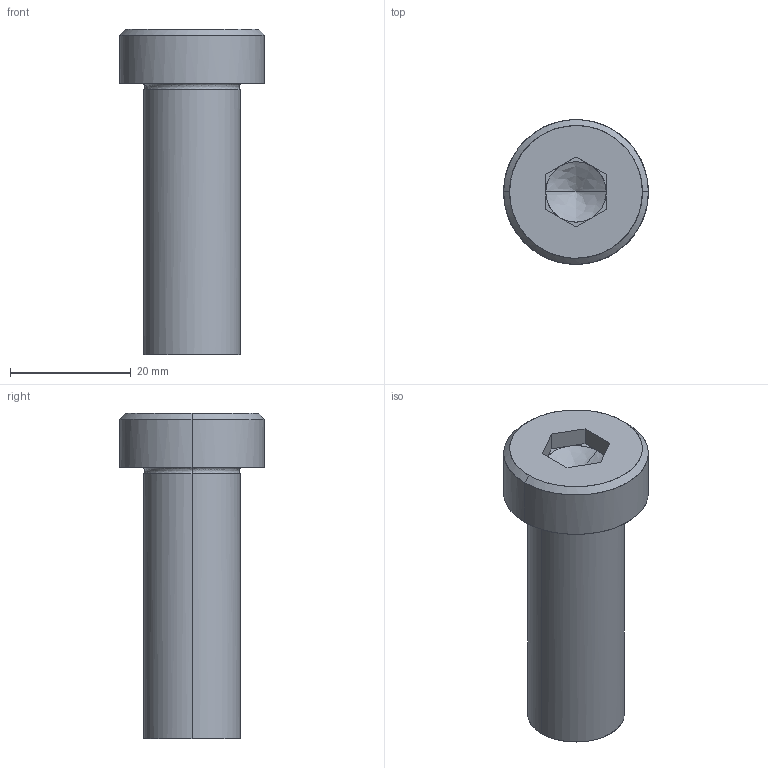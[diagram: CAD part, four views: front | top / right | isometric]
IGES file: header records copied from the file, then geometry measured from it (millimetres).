
Global section: file name: E:\UnigraphicsGraphicData\MISUMI_PRESS-PARTS\IGES\3d_sbtcn16-45_05141_r00.igs; native system: NX V5.0; preprocessor: UGS NX IGES V5.0; author: MISUMI; date: 20110105.162456; units: millimetre
Bounding box: 24 x 24 x 54 mm (x, y, z)
Surface area: 4608.4 mm2 (no closed solid volume)
Topology: 0 solids, 0 shells, 34 faces, 186 edges, 182 vertices
Faces by surface type: bspline 34
